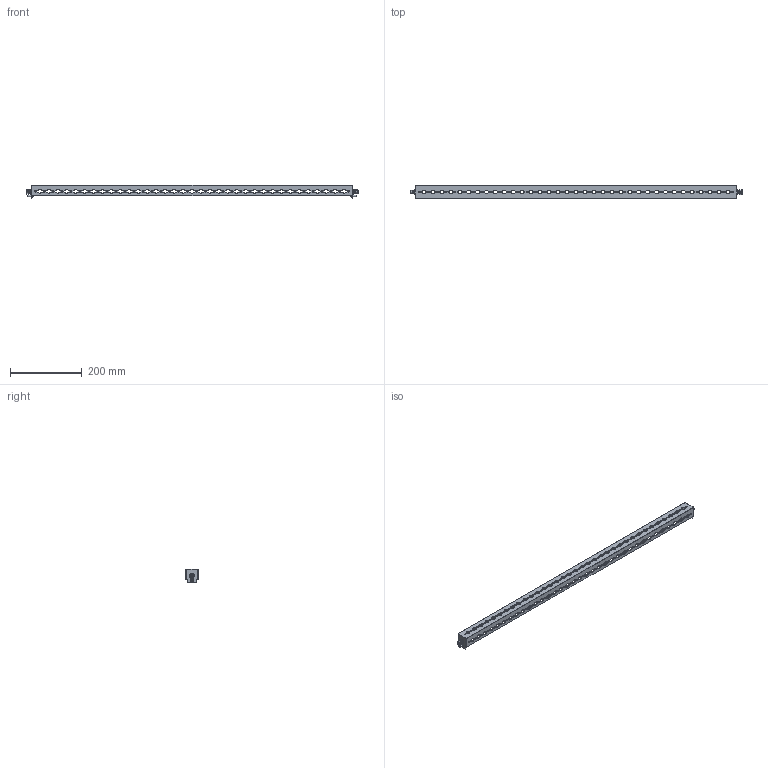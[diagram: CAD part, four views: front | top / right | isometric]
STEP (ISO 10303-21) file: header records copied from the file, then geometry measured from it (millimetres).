
FILE_DESCRIPTION(('Open CASCADE Model'),'2;1');
FILE_NAME('Open CASCADE Shape Model','2025-02-21T11:48:01',('Author'),( 'Open CASCADE'),'Open CASCADE STEP processor 7.8','Open CASCADE 7.8' ,'Unknown');
FILE_SCHEMA(('AUTOMOTIVE_DESIGN { 1 0 10303 214 1 1 1 1 }'));
Length unit declared in the file: millimetre
Products named in the file (5): Compound1; Solid1; Solid2; Solid3; Solid4
Assembly tree (7 placements, depth 2):
  Compound1
    Solid1
    Solid2  x2
    Solid3  x2
    Solid4  x2
Bounding box: 927.6 x 34 x 38.5 mm (x, y, z)
Volume: 109647.3 mm3; surface area: 158306.4 mm2
Topology: 9 solids, 9 shells, 2230 faces, 6520 edges, 4306 vertices
Faces by surface type: cylinder 1244, plane 846, bspline 80, torus 32, cone 24, sphere 4
Full cylindrical faces by diameter (mm): 4.2 x108, 5 x4, 5.5 x2, 6 x2, 6.5 x4, 8.3 x2, 9.5 x2, 12 x2
Entity records: 72117 total; most frequent: CARTESIAN_POINT 14974, DIRECTION 12246, ORIENTED_EDGE 12034, EDGE_CURVE 6017, AXIS2_PLACEMENT_3D 4501, VERTEX_POINT 3998, LINE 3244, VECTOR 3244
